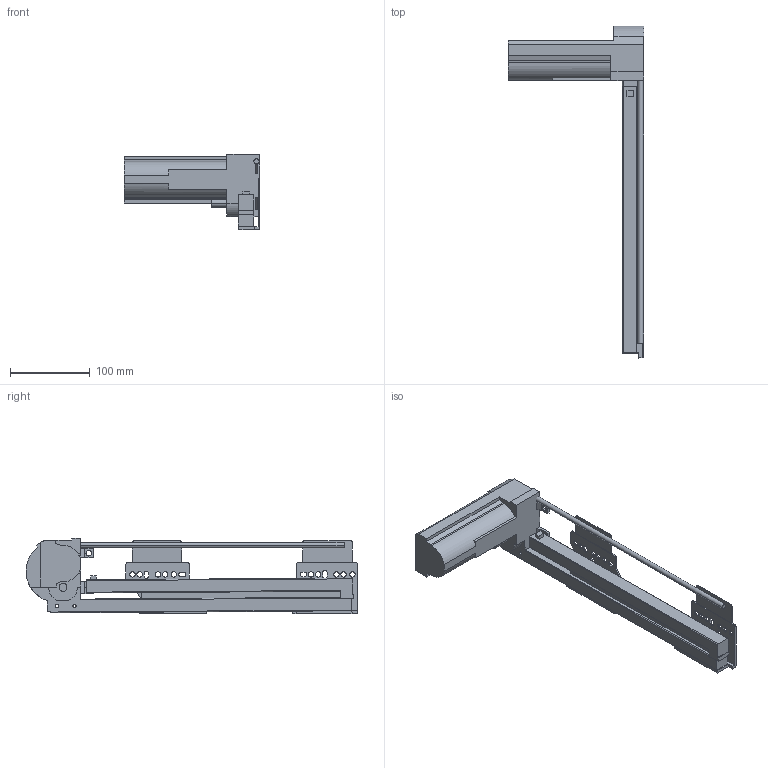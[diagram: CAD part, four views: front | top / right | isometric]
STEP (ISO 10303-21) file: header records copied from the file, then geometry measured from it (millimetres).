
FILE_DESCRIPTION (( 'STEP AP214' ), '1' );
FILE_NAME ('_IMOS_NOVA-Pro_Sensotronic_KS_P904_RE_NL-350_EB29mm.step', '2010-07-23T08:19:57', ( 'grass' ), ( '' ), 'SwSTEP 2.0', 'SolidWorks 2009', '' );
FILE_SCHEMA (( 'AUTOMOTIVE_DESIGN' ));
Length unit declared in the file: millimetre
Products named in the file (1): _IMOS_NOVA-Pro_Sensotronic_KS_P904_RE_NL-350_EB29mm
Bounding box: 169.95 x 416.62 x 95.08 mm (x, y, z)
Volume: 770654 mm3; surface area: 138485 mm2
Topology: 3 solids, 3 shells, 194 faces, 554 edges, 368 vertices
Faces by surface type: plane 119, cylinder 75
Entity records: 6477 total; most frequent: CARTESIAN_POINT 1129, ORIENTED_EDGE 1108, DIRECTION 1095, EDGE_CURVE 554, LINE 395, VECTOR 395, VERTEX_POINT 368, AXIS2_PLACEMENT_3D 350
